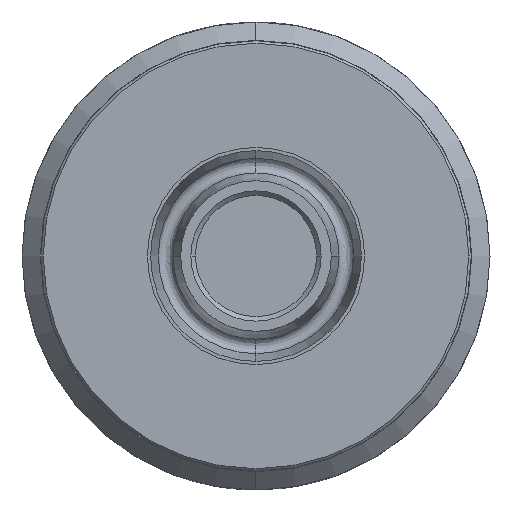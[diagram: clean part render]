
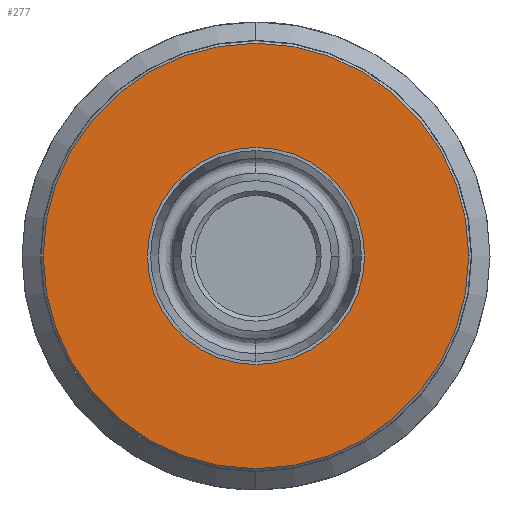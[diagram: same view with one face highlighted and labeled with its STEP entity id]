
A CAD part, left-side view. The second image highlights one B-rep face of the part: STEP entity #277.
In plain terms, the highlighted planar face has unit normal (1, 0, 0).
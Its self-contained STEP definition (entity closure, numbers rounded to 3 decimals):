
#75 = CARTESIAN_POINT ( 'NONE',  ( -52.07, 0., 5.715 ) ) ;
#83 = CIRCLE ( 'NONE', #245, 11.201 ) ;
#124 = CARTESIAN_POINT ( 'NONE',  ( -52.07, -11.201, 0. ) ) ;
#184 = CIRCLE ( 'NONE', #1145, 5.715 ) ;
#207 = CARTESIAN_POINT ( 'NONE',  ( -52.07, 11.201, 0. ) ) ;
#245 = AXIS2_PLACEMENT_3D ( 'NONE', #758, #619, #605 ) ;
#246 = AXIS2_PLACEMENT_3D ( 'NONE', #828, #1312, #365 ) ;
#253 = VERTEX_POINT ( 'NONE', #124 ) ;
#277 = ADVANCED_FACE ( 'NONE', ( #1365, #1111 ), #1292, .T. ) ;
#365 = DIRECTION ( 'NONE',  ( 0., 0., -1. ) ) ;
#515 = DIRECTION ( 'NONE',  ( -1., 0., 0. ) ) ;
#519 = CARTESIAN_POINT ( 'NONE',  ( -52.07, 0., 0. ) ) ;
#605 = DIRECTION ( 'NONE',  ( 0., 1., 0. ) ) ;
#619 = DIRECTION ( 'NONE',  ( 1., 0., 0. ) ) ;
#648 = DIRECTION ( 'NONE',  ( 0., 0., -1. ) ) ;
#658 = DIRECTION ( 'NONE',  ( 0., 0., -1. ) ) ;
#669 = DIRECTION ( 'NONE',  ( -1., 0., 0. ) ) ;
#729 = ORIENTED_EDGE ( 'NONE', *, *, #1502, .T. ) ;
#758 = CARTESIAN_POINT ( 'NONE',  ( -52.07, 0., 0. ) ) ;
#793 = CARTESIAN_POINT ( 'NONE',  ( -52.07, 0., 0. ) ) ;
#794 = EDGE_CURVE ( 'NONE', #1760, #1447, #1114, .T. ) ;
#828 = CARTESIAN_POINT ( 'NONE',  ( -52.07, 0., 0. ) ) ;
#839 = DIRECTION ( 'NONE',  ( 1., 0., 0. ) ) ;
#971 = CARTESIAN_POINT ( 'NONE',  ( -52.07, 0., -5.715 ) ) ;
#1101 = EDGE_LOOP ( 'NONE', ( #1163, #1874 ) ) ;
#1111 = FACE_OUTER_BOUND ( 'NONE', #1125, .T. ) ;
#1114 = CIRCLE ( 'NONE', #1169, 5.715 ) ;
#1125 = EDGE_LOOP ( 'NONE', ( #1423, #729 ) ) ;
#1145 = AXIS2_PLACEMENT_3D ( 'NONE', #793, #669, #648 ) ;
#1163 = ORIENTED_EDGE ( 'NONE', *, *, #794, .T. ) ;
#1169 = AXIS2_PLACEMENT_3D ( 'NONE', #519, #515, #658 ) ;
#1292 = PLANE ( 'NONE',  #246 ) ;
#1312 = DIRECTION ( 'NONE',  ( 1., 0., 0. ) ) ;
#1365 = FACE_BOUND ( 'NONE', #1101, .T. ) ;
#1387 = AXIS2_PLACEMENT_3D ( 'NONE', #1772, #839, #1924 ) ;
#1423 = ORIENTED_EDGE ( 'NONE', *, *, #1886, .T. ) ;
#1447 = VERTEX_POINT ( 'NONE', #75 ) ;
#1502 = EDGE_CURVE ( 'NONE', #253, #1925, #83, .T. ) ;
#1728 = EDGE_CURVE ( 'NONE', #1447, #1760, #184, .T. ) ;
#1760 = VERTEX_POINT ( 'NONE', #971 ) ;
#1772 = CARTESIAN_POINT ( 'NONE',  ( -52.07, 0., 0. ) ) ;
#1874 = ORIENTED_EDGE ( 'NONE', *, *, #1728, .T. ) ;
#1886 = EDGE_CURVE ( 'NONE', #1925, #253, #1941, .T. ) ;
#1924 = DIRECTION ( 'NONE',  ( 0., 1., 0. ) ) ;
#1925 = VERTEX_POINT ( 'NONE', #207 ) ;
#1941 = CIRCLE ( 'NONE', #1387, 11.201 ) ;
